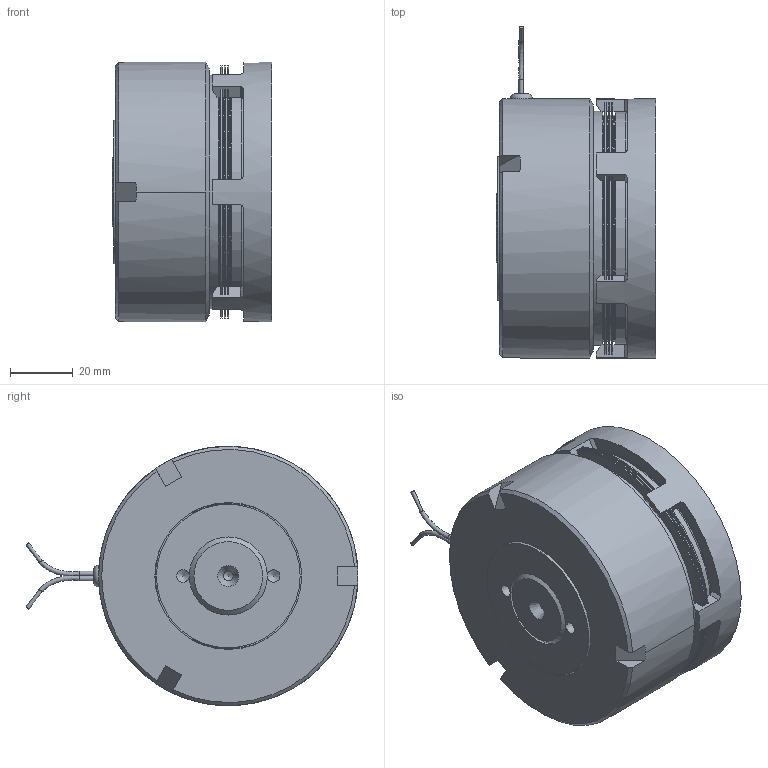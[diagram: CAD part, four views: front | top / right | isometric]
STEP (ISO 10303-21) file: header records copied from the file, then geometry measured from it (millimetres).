
FILE_DESCRIPTION(/* description */ ('','CAx-IF Rec.Pracs.---Representation and Presentation of Product Manufacturing Information (PMI)---4.0---2014-10-13'),/* implementation_level */ '2;1');
FILE_NAME(/* name */ 'X:\INVENTOR\DISEGNI\05_Friz_Elettmag-Lam\05_05 ESB_S\05_05_082_01 ESB082_S\05_05_082_01 ESB082_S@STEP.stp',/* time_stamp */ '2018-09-20T08:21:08+02:00',/* author */ ('stefano'),/* organization */ (''),/* preprocessor_version */ 'ST-DEVELOPER v17',/* originating_system */ 'Autodesk Inventor 2018',/* authorisation */ '');
FILE_SCHEMA (('AP242_MANAGED_MODEL_BASED_3D_ENGINEERING_MIM_LF { 1 0 10303 442 1 1 4 }'));
Length unit declared in the file: millimetre
Products named in the file (1): 05_05_082_01 ESB082_S_Substitute_1
Bounding box: 51 x 106.22 x 83 mm (x, y, z)
Volume: 209943.9 mm3; surface area: 109790.3 mm2
Topology: 8 solids, 8 shells, 1106 faces, 3496 edges, 2294 vertices
Faces by surface type: cylinder 802, plane 229, cone 41, torus 23, sphere 9, bspline 2
Full cylindrical faces by diameter (mm): 1.154 x2, 1.5 x1, 2.5 x2, 3.1 x2, 4 x2, 25 x1, 30 x1, 32.04 x2, 34 x4, 34.8 x1, 34.9 x1, 39.96 x2, 46 x1, 47 x3, 49.5 x1, 50.5 x1, 51 x1, 56 x1, 63 x1, 72.4 x4, 74 x1, 74.5 x1, 75 x2, 75.1 x1, 83 x1
Entity records: 42417 total; most frequent: CARTESIAN_POINT 8178, DIRECTION 7678, ORIENTED_EDGE 6950, EDGE_CURVE 3475, AXIS2_PLACEMENT_3D 3233, VERTEX_POINT 2294, CIRCLE 2100, EDGE_LOOP 1256
